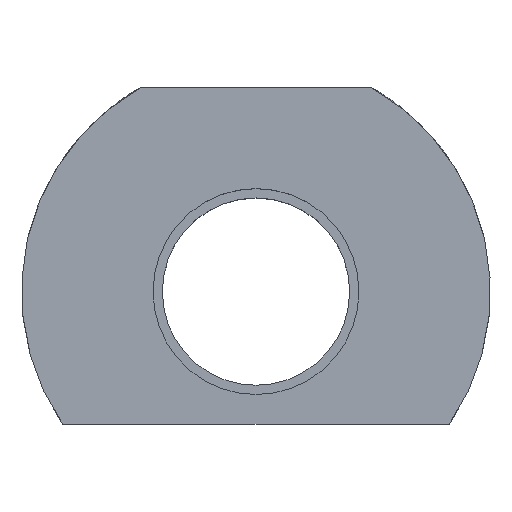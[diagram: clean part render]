
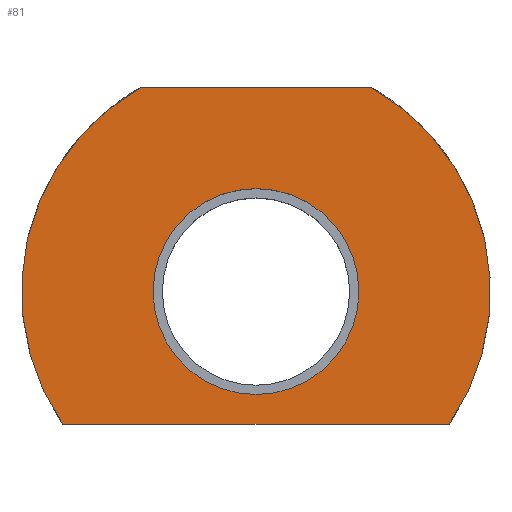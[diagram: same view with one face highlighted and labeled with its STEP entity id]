
A CAD part, top view. The second image highlights one B-rep face of the part: STEP entity #81.
In plain terms, the highlighted planar face has unit normal (0, 0, 1).
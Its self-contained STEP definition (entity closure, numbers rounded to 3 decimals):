
#81 = ADVANCED_FACE( '', ( #131, #132 ), #133, .T. );
#131 = FACE_BOUND( '', #228, .T. );
#132 = FACE_OUTER_BOUND( '', #229, .T. );
#133 = PLANE( '', #230 );
#228 = EDGE_LOOP( '', ( #339 ) );
#229 = EDGE_LOOP( '', ( #340, #341, #342, #343 ) );
#230 = AXIS2_PLACEMENT_3D( '', #344, #345, #346 );
#339 = ORIENTED_EDGE( '', *, *, #574, .T. );
#340 = ORIENTED_EDGE( '', *, *, #575, .T. );
#341 = ORIENTED_EDGE( '', *, *, #576, .T. );
#342 = ORIENTED_EDGE( '', *, *, #577, .T. );
#343 = ORIENTED_EDGE( '', *, *, #578, .T. );
#344 = CARTESIAN_POINT( '', ( 0., 0., 7.5 ) );
#345 = DIRECTION( '', ( 0., 0., 1. ) );
#346 = DIRECTION( '', ( 1., 0., 0. ) );
#574 = EDGE_CURVE( '', #657, #657, #658, .T. );
#575 = EDGE_CURVE( '', #659, #660, #661, .T. );
#576 = EDGE_CURVE( '', #660, #662, #663, .T. );
#577 = EDGE_CURVE( '', #662, #664, #665, .T. );
#578 = EDGE_CURVE( '', #664, #659, #666, .T. );
#657 = VERTEX_POINT( '', #850 );
#658 = CIRCLE( '', #851, 10.1 );
#659 = VERTEX_POINT( '', #852 );
#660 = VERTEX_POINT( '', #853 );
#661 = LINE( '', #854, #855 );
#662 = VERTEX_POINT( '', #856 );
#663 = CIRCLE( '', #857, 23. );
#664 = VERTEX_POINT( '', #858 );
#665 = LINE( '', #859, #860 );
#666 = CIRCLE( '', #861, 23. );
#850 = CARTESIAN_POINT( '', ( -10.1, 0., 7.5 ) );
#851 = AXIS2_PLACEMENT_3D( '', #1069, #1070, #1071 );
#852 = CARTESIAN_POINT( '', ( 11.358, 20., 7.5 ) );
#853 = CARTESIAN_POINT( '', ( -11.358, 20., 7.5 ) );
#854 = CARTESIAN_POINT( '', ( 11.358, 20., 7.5 ) );
#855 = VECTOR( '', #1072, 1000. );
#856 = CARTESIAN_POINT( '', ( -18.974, -13., 7.5 ) );
#857 = AXIS2_PLACEMENT_3D( '', #1073, #1074, #1075 );
#858 = CARTESIAN_POINT( '', ( 18.974, -13., 7.5 ) );
#859 = CARTESIAN_POINT( '', ( -18.974, -13., 7.5 ) );
#860 = VECTOR( '', #1076, 1000. );
#861 = AXIS2_PLACEMENT_3D( '', #1077, #1078, #1079 );
#1069 = CARTESIAN_POINT( '', ( 0., 0., 7.5 ) );
#1070 = DIRECTION( '', ( 0., 0., -1. ) );
#1071 = DIRECTION( '', ( -1., 0., 0. ) );
#1072 = DIRECTION( '', ( -1., 0., 0. ) );
#1073 = CARTESIAN_POINT( '', ( 0., 0., 7.5 ) );
#1074 = DIRECTION( '', ( 0., 0., 1. ) );
#1075 = DIRECTION( '', ( 1., 0., 0. ) );
#1076 = DIRECTION( '', ( 1., 0., 0. ) );
#1077 = CARTESIAN_POINT( '', ( 0., 0., 7.5 ) );
#1078 = DIRECTION( '', ( 0., 0., 1. ) );
#1079 = DIRECTION( '', ( 1., 0., 0. ) );
